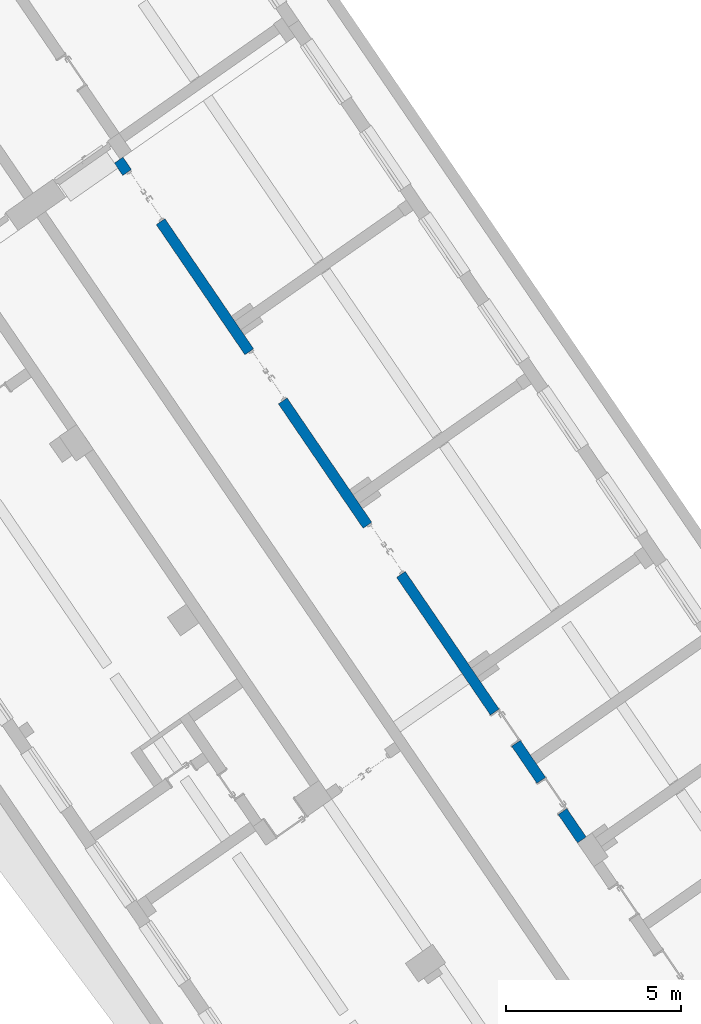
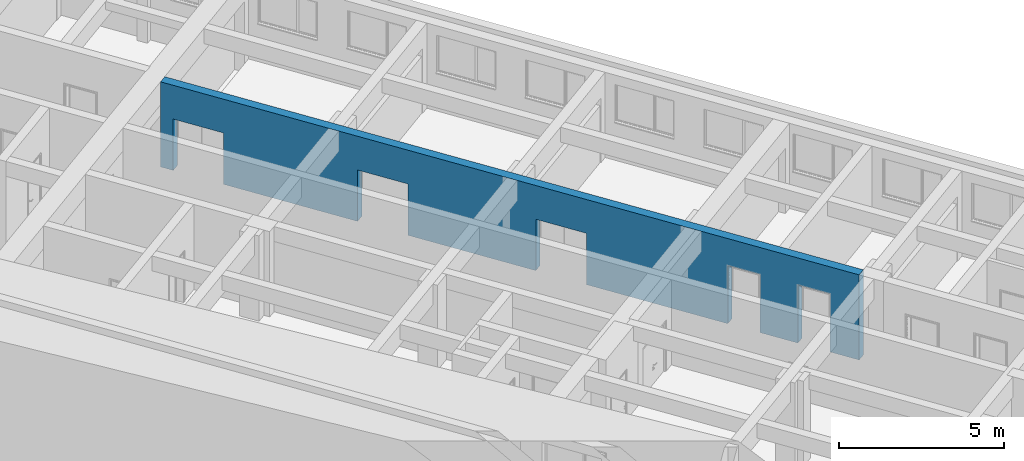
# One storey, part 27 of 112: 1 wall, 5 openings.
"""IFC2X3 building model written with IfcOpenShell, lengths in millimetres."""

from ifc_helpers import new_model, entity, si_unit, converted_unit, derived_unit, direction, frame, frame_2d, origin, place, context, subcontext, project, spatial, polyline, rectangle, outline, extrude, material, layer, layer_set, layer_usage, type_object, element, save


model = new_model("IFC2X3")

# Units and contexts
model_context = context("Model", 3, precision=0.01, world=origin(), true_north=direction((6.123031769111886e-17, 1.0)))
body_context = subcontext(model_context, "Body", "Model", "MODEL_VIEW")
ifc_project = project(units=[si_unit("LENGTHUNIT", "METRE", prefix="MILLI"), si_unit("AREAUNIT", "SQUARE_METRE"), si_unit("VOLUMEUNIT", "CUBIC_METRE"), converted_unit("PLANEANGLEUNIT", "DEGREE", entity("IfcRatioMeasure", 0.017453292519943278), si_unit("PLANEANGLEUNIT", "RADIAN"), dimensions=[0, 0, 0, 0, 0, 0, 0]), si_unit("MASSUNIT", "GRAM", prefix="KILO"), derived_unit("MASSDENSITYUNIT", [(si_unit("MASSUNIT", "GRAM", prefix="KILO"), 1), (si_unit("LENGTHUNIT", "METRE"), -3)]), derived_unit("MOMENTOFINERTIAUNIT", [(si_unit("LENGTHUNIT", "METRE"), 4)]), si_unit("TIMEUNIT", "SECOND"), si_unit("FREQUENCYUNIT", "HERTZ"), si_unit("THERMODYNAMICTEMPERATUREUNIT", "DEGREE_CELSIUS"), derived_unit("THERMALTRANSMITTANCEUNIT", [(si_unit("MASSUNIT", "GRAM", prefix="KILO"), 1), (si_unit("THERMODYNAMICTEMPERATUREUNIT", "KELVIN"), -1), (si_unit("TIMEUNIT", "SECOND"), -3)]), derived_unit("THERMALCONDUCTANCEUNIT", [(si_unit("MASSUNIT", "GRAM", prefix="KILO"), 1), (si_unit("LENGTHUNIT", "METRE"), 1), (si_unit("THERMODYNAMICTEMPERATUREUNIT", "KELVIN"), -1), (si_unit("TIMEUNIT", "SECOND"), -3)]), derived_unit("VOLUMETRICFLOWRATEUNIT", [(si_unit("LENGTHUNIT", "METRE"), 3), (si_unit("TIMEUNIT", "SECOND"), -1)]), derived_unit("MASSFLOWRATEUNIT", [(si_unit("MASSUNIT", "GRAM", prefix="KILO"), 1), (si_unit("TIMEUNIT", "SECOND"), -1)]), derived_unit("ROTATIONALFREQUENCYUNIT", [(si_unit("TIMEUNIT", "SECOND"), -1)]), si_unit("ELECTRICCURRENTUNIT", "AMPERE"), si_unit("ELECTRICVOLTAGEUNIT", "VOLT"), si_unit("POWERUNIT", "WATT"), converted_unit("FORCEUNIT", "KIP", entity("IfcRatioMeasure", 2.088543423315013e-05), si_unit("FORCEUNIT", "NEWTON"), dimensions=[1, 1, -2, 0, 0, 0, 0]), si_unit("ILLUMINANCEUNIT", "LUX"), si_unit("LUMINOUSFLUXUNIT", "LUMEN"), si_unit("LUMINOUSINTENSITYUNIT", "CANDELA"), derived_unit("USERDEFINED", [(si_unit("MASSUNIT", "GRAM", prefix="KILO"), -1), (si_unit("LENGTHUNIT", "METRE"), -2), (si_unit("TIMEUNIT", "SECOND"), 3), (si_unit("LUMINOUSFLUXUNIT", "LUMEN"), 1)]), derived_unit("USERDEFINED", [(si_unit("MASSUNIT", "GRAM", prefix="KILO"), 1), (si_unit("LENGTHUNIT", "METRE"), 3), (si_unit("TIMEUNIT", "SECOND"), -3), (si_unit("ELECTRICCURRENTUNIT", "AMPERE"), -2)]), derived_unit("USERDEFINED", [(si_unit("LENGTHUNIT", "METRE"), 2), (si_unit("TIMEUNIT", "SECOND"), -2)]), derived_unit("SOUNDPOWERUNIT", [(si_unit("MASSUNIT", "GRAM", prefix="KILO"), 1), (si_unit("LENGTHUNIT", "METRE"), 2), (si_unit("TIMEUNIT", "SECOND"), -3)]), derived_unit("SOUNDPRESSUREUNIT", [(si_unit("MASSUNIT", "GRAM", prefix="KILO"), 1), (si_unit("LENGTHUNIT", "METRE"), -1), (si_unit("TIMEUNIT", "SECOND"), -2)]), derived_unit("LINEARVELOCITYUNIT", [(si_unit("LENGTHUNIT", "METRE"), 1), (si_unit("TIMEUNIT", "SECOND"), -1)]), si_unit("PRESSUREUNIT", "PASCAL"), derived_unit("USERDEFINED", [(si_unit("LENGTHUNIT", "METRE"), -2), (si_unit("MASSUNIT", "GRAM", prefix="KILO"), 1), (si_unit("TIMEUNIT", "SECOND"), -2)]), derived_unit("LINEARFORCEUNIT", [(si_unit("MASSUNIT", "GRAM", prefix="KILO"), 1), (si_unit("LENGTHUNIT", "METRE"), 1), (si_unit("TIMEUNIT", "SECOND"), -2), (si_unit("LENGTHUNIT", "METRE"), -1)]), derived_unit("PLANARFORCEUNIT", [(si_unit("MASSUNIT", "GRAM", prefix="KILO"), 1), (si_unit("LENGTHUNIT", "METRE"), 1), (si_unit("TIMEUNIT", "SECOND"), -2), (si_unit("LENGTHUNIT", "METRE"), -2)]), derived_unit("SPECIFICHEATCAPACITYUNIT", [(si_unit("LENGTHUNIT", "METRE"), 2), (si_unit("TIMEUNIT", "SECOND"), -2), (si_unit("THERMODYNAMICTEMPERATUREUNIT", "KELVIN"), -1)]), derived_unit("VAPORPERMEABILITYUNIT", [(si_unit("TIMEUNIT", "SECOND"), 1), (si_unit("LENGTHUNIT", "METRE"), -1)]), derived_unit("DYNAMICVISCOSITYUNIT", [(si_unit("MASSUNIT", "GRAM", prefix="KILO"), 1), (si_unit("LENGTHUNIT", "METRE"), -1), (si_unit("TIMEUNIT", "SECOND"), -1)]), derived_unit("THERMALEXPANSIONCOEFFICIENTUNIT", [(si_unit("THERMODYNAMICTEMPERATUREUNIT", "KELVIN"), -1)])], contexts=[model_context])

# Site, building, storey
site_placement = place(None, frame((0.0, 0.0, 0.0), z_axis=(0.0, 0.0, 1.0), x_axis=(0.8191520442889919, 0.5735764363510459, 0.0)))
site = spatial("IfcSite", under=ifc_project, at=site_placement, Name="Default", CompositionType="ELEMENT")
building_placement = place(site_placement, origin())
building = spatial("IfcBuilding", under=site, at=building_placement, CompositionType="ELEMENT")
storey_placement = place(building_placement, frame((0.0, 0.0, -3600.0)))
storey = spatial("IfcBuildingStorey", under=building, at=storey_placement, Name="0.UG -3.60", CompositionType="ELEMENT", Elevation=-3600.0000000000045)

# Wall, openings
ifc_material = material(Name="Analytical Wall Surface_CJC")
ifc_layer = layer(ifc_material, 300.0)
ifc_layer_set = layer_set([ifc_layer], Name="Basic Wall:Wand_Innen_30")
ifc_layer_usage = layer_usage(ifc_layer_set, "AXIS2", "NEGATIVE", 150.0)
wall_type = type_object("IfcWallType", Name="Basic Wall:Wand_Innen_30", PredefinedType="STANDARD", material=ifc_layer_set)
wall_placement = place(storey_placement, frame((-211705.33032162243, 79718.96332930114, 300.0), z_axis=(0.0, 0.0, 1.0), x_axis=(0.01272958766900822, 0.9999189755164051, 0.0)))
wall = element("IfcWallStandardCase", 1, at=wall_placement, inside=storey, type_object=wall_type, material=ifc_layer_usage, Name="Basic Wall:Wand_Innen_30", ObjectType="Basic Wall:Wand_Innen_30", context=body_context, shape_type="SweptSolid", body=[
    extrude(outline(polyline([(0.0, -150.0), (23506.209601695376, -150.0), (23502.39041594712, 150.0), (0.0, 150.0), (0.0, -150.0)])), origin(), (0.0, 0.0, 1.0), 3150.000000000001),
])
opening_1_placement = place(wall_placement, frame((2060.0, 150.0, 0.0)))
element("IfcOpeningElement", 2, at=opening_1_placement, cuts=wall, Name="Doors_IntSgl:100x210:1", ObjectType="Opening", context=body_context, shape_type="SweptSolid", body=[
    extrude(rectangle(XDim=2150.000000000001, YDim=1079.9999999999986, at=frame_2d((1075.0000000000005, 539.9999999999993), x_axis=(1.0, 0.0))), frame((0.0, 0.0, 0.0), z_axis=(0.0, -1.0, 0.0), x_axis=(0.0, 0.0, 1.0)), (0.0, 0.0, 1.0), 300.0),
])
opening_2_placement = place(wall_placement, frame((4420.0, 150.0, 0.0)))
element("IfcOpeningElement", 3, at=opening_2_placement, cuts=wall, Name="Doors_IntSgl:100x210:1", ObjectType="Opening", context=body_context, shape_type="SweptSolid", body=[
    extrude(rectangle(XDim=2150.000000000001, YDim=1079.9999999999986, at=frame_2d((1075.0000000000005, 539.9999999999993), x_axis=(1.0, 0.0))), frame((0.0, 0.0, 0.0), z_axis=(0.0, -1.0, 0.0), x_axis=(0.0, 0.0, 1.0)), (0.0, 0.0, 1.0), 300.0),
])
opening_3_placement = place(wall_placement, frame((10879.050000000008, 150.0, -300.0)))
element("IfcOpeningElement", 4, at=opening_3_placement, cuts=wall, Name="M_Door-Passage-Double-Flush:160x210:1", ObjectType="Opening", context=body_context, shape_type="SweptSolid", body=[
    extrude(rectangle(XDim=2200.0, YDim=1699.9999999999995, at=frame_2d((1100.0, 849.9999999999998), x_axis=(1.0, 0.0))), frame((0.0, 0.0, 0.0), z_axis=(0.0, -1.0, 0.0), x_axis=(0.0, 0.0, 1.0)), (0.0, 0.0, 1.0), 300.0),
])
opening_4_placement = place(wall_placement, frame((16878.100000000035, 150.0, -300.0)))
element("IfcOpeningElement", 5, at=opening_4_placement, cuts=wall, Name="M_Door-Passage-Double-Flush:160x210:1", ObjectType="Opening", context=body_context, shape_type="SweptSolid", body=[
    extrude(rectangle(XDim=2200.0, YDim=1699.9999999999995, at=frame_2d((1100.0, 849.9999999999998), x_axis=(1.0, 0.0))), frame((0.0, 0.0, 0.0), z_axis=(0.0, -1.0, 0.0), x_axis=(0.0, 0.0, 1.0)), (0.0, 0.0, 1.0), 300.0),
])
opening_5_placement = place(wall_placement, frame((23077.150000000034, 150.0, -300.0)))
element("IfcOpeningElement", 6, at=opening_5_placement, cuts=wall, Name="M_Door-Passage-Double-Flush:160x210:1", ObjectType="Opening", context=body_context, shape_type="SweptSolid", body=[
    extrude(rectangle(XDim=2200.0, YDim=1699.9999999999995, at=frame_2d((1100.0, 849.9999999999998), x_axis=(1.0, 0.0))), frame((0.0, 0.0, 0.0), z_axis=(0.0, -1.0, 0.0), x_axis=(0.0, 0.0, 1.0)), (0.0, 0.0, 1.0), 300.0),
])

save(model, "model.ifc")
